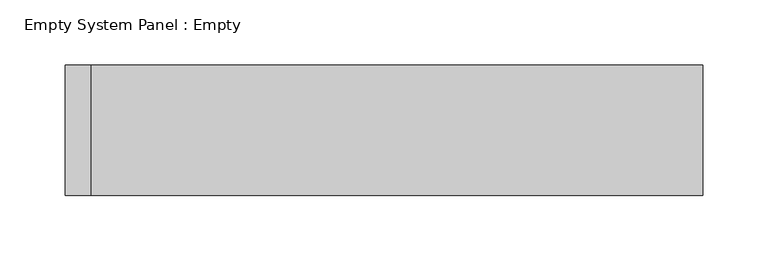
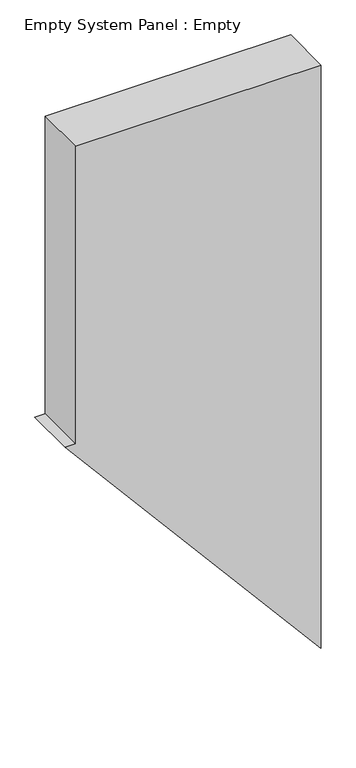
"""IFC4 building model written with IfcOpenShell, lengths in millimetres: plate geometry, Empty System Panel : Empty."""

from ifc_helpers import new_model, si_unit, frame, origin, place, context, project, spatial, polyline, outline, extrude, source, transform, mapped, element, save


def empty_system_panel_empty_1c803d2d(model_context):
    return source(origin(), model_context, "Body", "SweptSolid", [
        extrude(outline(polyline([(575.7931565, -244.1589868), (0.0, 244.1589868), (1175.1690273, 244.1589868), (1175.1690273, -224.1589868), (575.7931565, -224.1589868), (575.7931565, -244.1589868)])), frame((0.0, -50.0, 0.0), z_axis=(0.0, 1.0, 0.0), x_axis=(0.0, 0.0, 1.0)), (0.0, 0.0, 1.0), 100.0),
    ])


if __name__ == "__main__":
    model = new_model("IFC4")
    model_context = context("Model", 3, world=origin())
    ifc_project = project(units=[si_unit("LENGTHUNIT", "METRE", prefix="MILLI")], contexts=[model_context])
    site = spatial("IfcSite", under=ifc_project)
    building = spatial("IfcBuilding", under=site)
    placement = place(None, origin())
    empty_system_panel_empty_shape = empty_system_panel_empty_1c803d2d(model_context)
    element("IfcPlate", 1, ObjectType="Empty System Panel : Empty", at=placement, inside=building, context=model_context, shape_type="MappedRepresentation", body=[
        mapped(empty_system_panel_empty_shape, transform((0.0, 0.0, 0.0), x_axis=(1.0, 0.0, 0.0), y_axis=(0.0, 1.0, 0.0), z_axis=(0.0, 0.0, 1.0))),
    ])
    save(model, "model.ifc")
